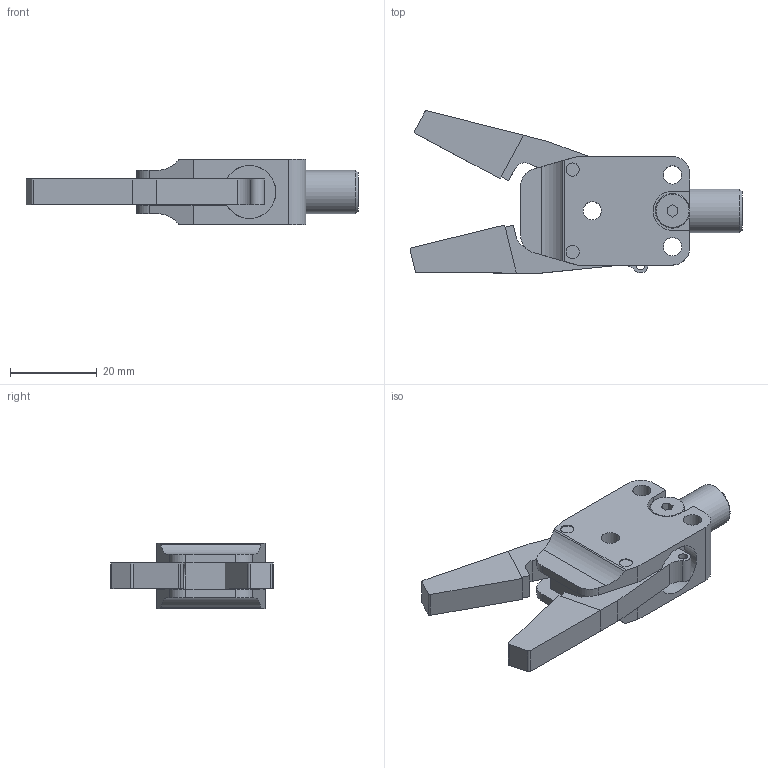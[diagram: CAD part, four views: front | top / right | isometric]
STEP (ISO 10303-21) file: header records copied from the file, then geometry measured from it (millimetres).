
FILE_DESCRIPTION(('STEP AP214'),'1');
FILE_NAME('CA.GZA.10.12.MC.stp','2020-04-17T12:38:50',(' '),(' '),'Spatial InterOp 3D',' ',' ');
FILE_SCHEMA(('AUTOMOTIVE_DESIGN { 1 0 10303 214 1 1 1 1 }'));
Length unit declared in the file: millimetre
Products named in the file (3): CA.GZA.10.12.MC; GZA.10.12.3.MC; GZA.10.12.1.L (derivato)
Assembly tree (3 placements, depth 2):
  CA.GZA.10.12.MC
    GZA.10.12.3.MC  x2
    GZA.10.12.1.L (derivato)
Bounding box: 76.48 x 37.41 x 15 mm (x, y, z)
Volume: 14928.6 mm3; surface area: 8818.2 mm2
Topology: 3 solids, 8 shells, 157 faces, 399 edges, 263 vertices
Faces by surface type: plane 90, cylinder 62, cone 5
Full cylindrical faces by diameter (mm): 2.05 x2, 3 x2, 3.05 x8, 4.2 x5, 8 x1, 10 x1, 12.2 x2
Entity records: 4416 total; most frequent: CARTESIAN_POINT 597, DIRECTION 590, ORIENTED_EDGE 518, EDGE_CURVE 259, AXIS2_PLACEMENT_3D 214, VERTEX_POINT 183, LINE 162, VECTOR 162
